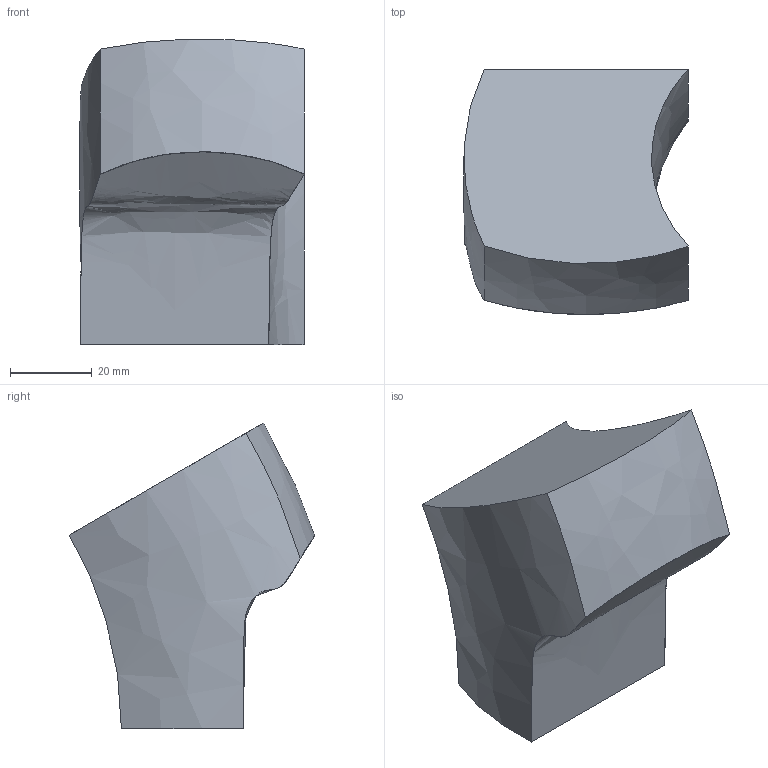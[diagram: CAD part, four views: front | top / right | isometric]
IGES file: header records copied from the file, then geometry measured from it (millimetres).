
Global section: file name: B_Ex_06_6; native system: AutoCAD 2016 - Español (Spanish),; preprocessor: Autodesk Translation Framework DWG producer (atf_dwg_producer); organization: unknown; date: 20200525.154521; units: millimetre
Bounding box: 55 x 60.06 x 74.96 mm (x, y, z)
Volume: 122748.2 mm3; surface area: 18243 mm2
Topology: 1 solids, 1 shells, 8 faces, 45 edges, 40 vertices
Faces by surface type: bspline 8
